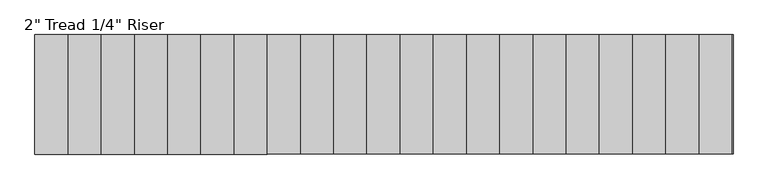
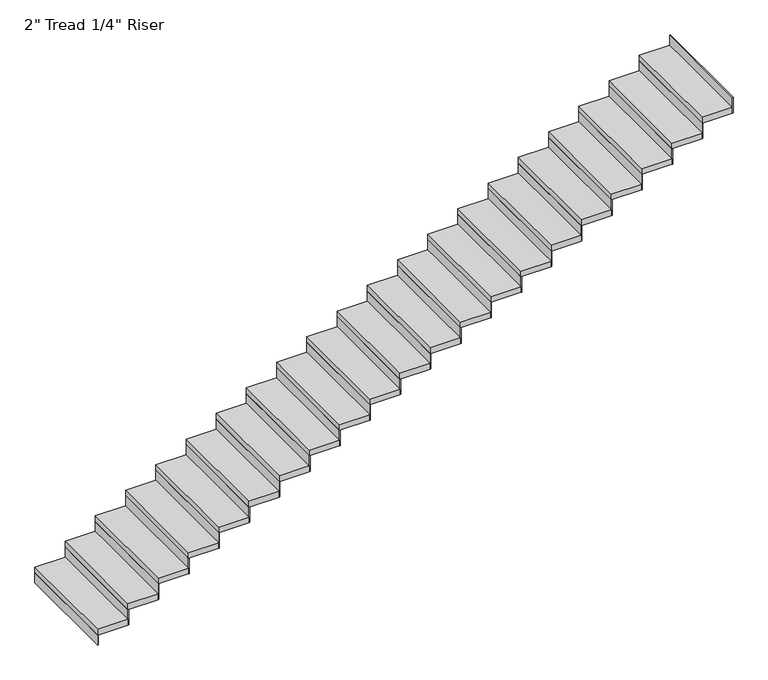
"""IFC4 building model written with IfcOpenShell, lengths in millimetres: stair flight geometry."""

from ifc_helpers import new_model, si_unit, frame, origin, origin_with_axes, place, context, project, spatial, polyline, outline, extrude, source, transform, mapped, element, save


def stair_flight_54802832(model_context):
    return source(origin(), model_context, "Body", "SweptSolid", [
        extrude(outline(polyline([(-14526.9713318, -10136.835031), (-14533.3213318, -10136.835031), (-14533.3213318, -9222.435031), (-14526.9713318, -9222.435031), (-14526.9713318, -10136.835031)])), origin_with_axes(), (0.0, 0.0, 1.0), 87.7454545),
        extrude(outline(polyline([(-14279.3213318, -9222.435031), (-14279.3213318, -10136.835031), (-14533.3213318, -10136.835031), (-14533.3213318, -9222.435031), (-14279.3213318, -9222.435031)])), frame((0.0, 0.0, 87.7454545), z_axis=(0.0, 0.0, 1.0), x_axis=(1.0, 0.0, 0.0)), (0.0, 0.0, 1.0), 50.8),
        extrude(outline(polyline([(-14272.9713318, -10136.835031), (-14279.3213318, -10136.835031), (-14279.3213318, -9222.435031), (-14272.9713318, -9222.435031), (-14272.9713318, -10136.835031)])), frame((0.0, 0.0, 87.7454545), z_axis=(0.0, 0.0, 1.0), x_axis=(1.0, 0.0, 0.0)), (0.0, 0.0, 1.0), 138.5454545),
        extrude(outline(polyline([(-14025.3213318, -9222.435031), (-14025.3213318, -10136.835031), (-14279.3213318, -10136.835031), (-14279.3213318, -9222.435031), (-14025.3213318, -9222.435031)])), frame((0.0, 0.0, 226.2909091), z_axis=(0.0, 0.0, 1.0), x_axis=(1.0, 0.0, 0.0)), (0.0, 0.0, 1.0), 50.8),
        extrude(outline(polyline([(-14018.9713318, -10136.835031), (-14025.3213318, -10136.835031), (-14025.3213318, -9222.435031), (-14018.9713318, -9222.435031), (-14018.9713318, -10136.835031)])), frame((0.0, 0.0, 226.2909091), z_axis=(0.0, 0.0, 1.0), x_axis=(1.0, 0.0, 0.0)), (0.0, 0.0, 1.0), 138.5454545),
        extrude(outline(polyline([(-13771.3213318, -9222.435031), (-13771.3213318, -10136.835031), (-14025.3213318, -10136.835031), (-14025.3213318, -9222.435031), (-13771.3213318, -9222.435031)])), frame((0.0, 0.0, 364.8363636), z_axis=(0.0, 0.0, 1.0), x_axis=(1.0, 0.0, 0.0)), (0.0, 0.0, 1.0), 50.8),
        extrude(outline(polyline([(-13764.9713318, -10136.835031), (-13771.3213318, -10136.835031), (-13771.3213318, -9222.435031), (-13764.9713318, -9222.435031), (-13764.9713318, -10136.835031)])), frame((0.0, 0.0, 364.8363636), z_axis=(0.0, 0.0, 1.0), x_axis=(1.0, 0.0, 0.0)), (0.0, 0.0, 1.0), 138.5454545),
        extrude(outline(polyline([(-13517.3213318, -9222.435031), (-13517.3213318, -10136.835031), (-13771.3213318, -10136.835031), (-13771.3213318, -9222.435031), (-13517.3213318, -9222.435031)])), frame((0.0, 0.0, 503.3818182), z_axis=(0.0, 0.0, 1.0), x_axis=(1.0, 0.0, 0.0)), (0.0, 0.0, 1.0), 50.8),
        extrude(outline(polyline([(-13510.9713318, -10136.835031), (-13517.3213318, -10136.835031), (-13517.3213318, -9222.435031), (-13510.9713318, -9222.435031), (-13510.9713318, -10136.835031)])), frame((0.0, 0.0, 503.3818182), z_axis=(0.0, 0.0, 1.0), x_axis=(1.0, 0.0, 0.0)), (0.0, 0.0, 1.0), 138.5454545),
        extrude(outline(polyline([(-13263.3213318, -9222.435031), (-13263.3213318, -10136.835031), (-13517.3213318, -10136.835031), (-13517.3213318, -9222.435031), (-13263.3213318, -9222.435031)])), frame((0.0, 0.0, 641.9272727), z_axis=(0.0, 0.0, 1.0), x_axis=(1.0, 0.0, 0.0)), (0.0, 0.0, 1.0), 50.8),
        extrude(outline(polyline([(-13256.9713318, -10136.835031), (-13263.3213318, -10136.835031), (-13263.3213318, -9222.435031), (-13256.9713318, -9222.435031), (-13256.9713318, -10136.835031)])), frame((0.0, 0.0, 641.9272727), z_axis=(0.0, 0.0, 1.0), x_axis=(1.0, 0.0, 0.0)), (0.0, 0.0, 1.0), 138.5454545),
        extrude(outline(polyline([(-13009.3213318, -9222.435031), (-13009.3213318, -10136.835031), (-13263.3213318, -10136.835031), (-13263.3213318, -9222.435031), (-13009.3213318, -9222.435031)])), frame((0.0, 0.0, 780.4727273), z_axis=(0.0, 0.0, 1.0), x_axis=(1.0, 0.0, 0.0)), (0.0, 0.0, 1.0), 50.8),
        extrude(outline(polyline([(-13002.9713318, -10136.835031), (-13009.3213318, -10136.835031), (-13009.3213318, -9222.435031), (-13002.9713318, -9222.435031), (-13002.9713318, -10136.835031)])), frame((0.0, 0.0, 780.4727273), z_axis=(0.0, 0.0, 1.0), x_axis=(1.0, 0.0, 0.0)), (0.0, 0.0, 1.0), 138.5454545),
        extrude(outline(polyline([(-12755.3213318, -9222.435031), (-12755.3213318, -10136.835031), (-13009.3213318, -10136.835031), (-13009.3213318, -9222.435031), (-12755.3213318, -9222.435031)])), frame((0.0, 0.0, 919.0181818), z_axis=(0.0, 0.0, 1.0), x_axis=(1.0, 0.0, 0.0)), (0.0, 0.0, 1.0), 50.8),
        extrude(outline(polyline([(-12748.9713318, -10136.835031), (-12755.3213318, -10136.835031), (-12755.3213318, -9222.435031), (-12748.9713318, -9222.435031), (-12748.9713318, -10136.835031)])), frame((0.0, 0.0, 919.0181818), z_axis=(0.0, 0.0, 1.0), x_axis=(1.0, 0.0, 0.0)), (0.0, 0.0, 1.0), 138.5454545),
        extrude(outline(polyline([(-12501.3213318, -9222.435031), (-12501.3213318, -10136.835031), (-12755.3213318, -10136.835031), (-12755.3213318, -9222.435031), (-12501.3213318, -9222.435031)])), frame((0.0, 0.0, 1057.5636364), z_axis=(0.0, 0.0, 1.0), x_axis=(1.0, 0.0, 0.0)), (0.0, 0.0, 1.0), 50.8),
        extrude(outline(polyline([(-12494.9713318, -10136.835031), (-12501.3213318, -10136.835031), (-12501.3213318, -9222.435031), (-12494.9713318, -9222.435031), (-12494.9713318, -10136.835031)])), frame((0.0, 0.0, 1057.5636364), z_axis=(0.0, 0.0, 1.0), x_axis=(1.0, 0.0, 0.0)), (0.0, 0.0, 1.0), 138.5454545),
        extrude(outline(polyline([(-12247.3213318, -9222.435031), (-12247.3213318, -10136.835031), (-12501.3213318, -10136.835031), (-12501.3213318, -9222.435031), (-12247.3213318, -9222.435031)])), frame((0.0, 0.0, 1196.1090909), z_axis=(0.0, 0.0, 1.0), x_axis=(1.0, 0.0, 0.0)), (0.0, 0.0, 1.0), 50.8),
        extrude(outline(polyline([(-12240.9713318, -10136.835031), (-12247.3213318, -10136.835031), (-12247.3213318, -9222.435031), (-12240.9713318, -9222.435031), (-12240.9713318, -10136.835031)])), frame((0.0, 0.0, 1196.1090909), z_axis=(0.0, 0.0, 1.0), x_axis=(1.0, 0.0, 0.0)), (0.0, 0.0, 1.0), 138.5454545),
        extrude(outline(polyline([(-11993.3213318, -9222.435031), (-11993.3213318, -10136.835031), (-12247.3213318, -10136.835031), (-12247.3213318, -9222.435031), (-11993.3213318, -9222.435031)])), frame((0.0, 0.0, 1334.6545455), z_axis=(0.0, 0.0, 1.0), x_axis=(1.0, 0.0, 0.0)), (0.0, 0.0, 1.0), 50.8),
        extrude(outline(polyline([(-11986.9713318, -10136.835031), (-11993.3213318, -10136.835031), (-11993.3213318, -9222.435031), (-11986.9713318, -9222.435031), (-11986.9713318, -10136.835031)])), frame((0.0, 0.0, 1334.6545455), z_axis=(0.0, 0.0, 1.0), x_axis=(1.0, 0.0, 0.0)), (0.0, 0.0, 1.0), 138.5454545),
        extrude(outline(polyline([(-11739.3213318, -9222.435031), (-11739.3213318, -10136.835031), (-11993.3213318, -10136.835031), (-11993.3213318, -9222.435031), (-11739.3213318, -9222.435031)])), frame((0.0, 0.0, 1473.2), z_axis=(0.0, 0.0, 1.0), x_axis=(1.0, 0.0, 0.0)), (0.0, 0.0, 1.0), 50.8),
        extrude(outline(polyline([(-11732.9713318, -10136.835031), (-11739.3213318, -10136.835031), (-11739.3213318, -9222.435031), (-11732.9713318, -9222.435031), (-11732.9713318, -10136.835031)])), frame((0.0, 0.0, 1473.2), z_axis=(0.0, 0.0, 1.0), x_axis=(1.0, 0.0, 0.0)), (0.0, 0.0, 1.0), 138.5454545),
        extrude(outline(polyline([(-11485.3213318, -9222.435031), (-11485.3213318, -10136.835031), (-11739.3213318, -10136.835031), (-11739.3213318, -9222.435031), (-11485.3213318, -9222.435031)])), frame((0.0, 0.0, 1611.7454545), z_axis=(0.0, 0.0, 1.0), x_axis=(1.0, 0.0, 0.0)), (0.0, 0.0, 1.0), 50.8),
        extrude(outline(polyline([(-11478.9713318, -10136.835031), (-11485.3213318, -10136.835031), (-11485.3213318, -9222.435031), (-11478.9713318, -9222.435031), (-11478.9713318, -10136.835031)])), frame((0.0, 0.0, 1611.7454545), z_axis=(0.0, 0.0, 1.0), x_axis=(1.0, 0.0, 0.0)), (0.0, 0.0, 1.0), 138.5454545),
        extrude(outline(polyline([(-11231.3213318, -9222.435031), (-11231.3213318, -10136.835031), (-11485.3213318, -10136.835031), (-11485.3213318, -9222.435031), (-11231.3213318, -9222.435031)])), frame((0.0, 0.0, 1750.2909091), z_axis=(0.0, 0.0, 1.0), x_axis=(1.0, 0.0, 0.0)), (0.0, 0.0, 1.0), 50.8),
        extrude(outline(polyline([(-11224.9713318, -10136.835031), (-11231.3213318, -10136.835031), (-11231.3213318, -9222.435031), (-11224.9713318, -9222.435031), (-11224.9713318, -10136.835031)])), frame((0.0, 0.0, 1750.2909091), z_axis=(0.0, 0.0, 1.0), x_axis=(1.0, 0.0, 0.0)), (0.0, 0.0, 1.0), 138.5454545),
        extrude(outline(polyline([(-10977.3213318, -9222.435031), (-10977.3213318, -10136.835031), (-11231.3213318, -10136.835031), (-11231.3213318, -9222.435031), (-10977.3213318, -9222.435031)])), frame((0.0, 0.0, 1888.8363636), z_axis=(0.0, 0.0, 1.0), x_axis=(1.0, 0.0, 0.0)), (0.0, 0.0, 1.0), 50.8),
        extrude(outline(polyline([(-10970.9713318, -10136.835031), (-10977.3213318, -10136.835031), (-10977.3213318, -9222.435031), (-10970.9713318, -9222.435031), (-10970.9713318, -10136.835031)])), frame((0.0, 0.0, 1888.8363636), z_axis=(0.0, 0.0, 1.0), x_axis=(1.0, 0.0, 0.0)), (0.0, 0.0, 1.0), 138.5454545),
        extrude(outline(polyline([(-10723.3213318, -9222.435031), (-10723.3213318, -10136.835031), (-10977.3213318, -10136.835031), (-10977.3213318, -9222.435031), (-10723.3213318, -9222.435031)])), frame((0.0, 0.0, 2027.3818182), z_axis=(0.0, 0.0, 1.0), x_axis=(1.0, 0.0, 0.0)), (0.0, 0.0, 1.0), 50.8),
        extrude(outline(polyline([(-10716.9713318, -10136.835031), (-10723.3213318, -10136.835031), (-10723.3213318, -9222.435031), (-10716.9713318, -9222.435031), (-10716.9713318, -10136.835031)])), frame((0.0, 0.0, 2027.3818182), z_axis=(0.0, 0.0, 1.0), x_axis=(1.0, 0.0, 0.0)), (0.0, 0.0, 1.0), 138.5454545),
        extrude(outline(polyline([(-10469.3213318, -9222.435031), (-10469.3213318, -10136.835031), (-10723.3213318, -10136.835031), (-10723.3213318, -9222.435031), (-10469.3213318, -9222.435031)])), frame((0.0, 0.0, 2165.9272727), z_axis=(0.0, 0.0, 1.0), x_axis=(1.0, 0.0, 0.0)), (0.0, 0.0, 1.0), 50.8),
        extrude(outline(polyline([(-10462.9713318, -10136.835031), (-10469.3213318, -10136.835031), (-10469.3213318, -9222.435031), (-10462.9713318, -9222.435031), (-10462.9713318, -10136.835031)])), frame((0.0, 0.0, 2165.9272727), z_axis=(0.0, 0.0, 1.0), x_axis=(1.0, 0.0, 0.0)), (0.0, 0.0, 1.0), 138.5454545),
        extrude(outline(polyline([(-10215.3213318, -9222.435031), (-10215.3213318, -10136.835031), (-10469.3213318, -10136.835031), (-10469.3213318, -9222.435031), (-10215.3213318, -9222.435031)])), frame((0.0, 0.0, 2304.4727273), z_axis=(0.0, 0.0, 1.0), x_axis=(1.0, 0.0, 0.0)), (0.0, 0.0, 1.0), 50.8),
        extrude(outline(polyline([(-10208.9713318, -10136.835031), (-10215.3213318, -10136.835031), (-10215.3213318, -9222.435031), (-10208.9713318, -9222.435031), (-10208.9713318, -10136.835031)])), frame((0.0, 0.0, 2304.4727273), z_axis=(0.0, 0.0, 1.0), x_axis=(1.0, 0.0, 0.0)), (0.0, 0.0, 1.0), 138.5454545),
        extrude(outline(polyline([(-9961.3213318, -9222.435031), (-9961.3213318, -10136.835031), (-10215.3213318, -10136.835031), (-10215.3213318, -9222.435031), (-9961.3213318, -9222.435031)])), frame((0.0, 0.0, 2443.0181818), z_axis=(0.0, 0.0, 1.0), x_axis=(1.0, 0.0, 0.0)), (0.0, 0.0, 1.0), 50.8),
        extrude(outline(polyline([(-9954.9713318, -10136.835031), (-9961.3213318, -10136.835031), (-9961.3213318, -9222.435031), (-9954.9713318, -9222.435031), (-9954.9713318, -10136.835031)])), frame((0.0, 0.0, 2443.0181818), z_axis=(0.0, 0.0, 1.0), x_axis=(1.0, 0.0, 0.0)), (0.0, 0.0, 1.0), 138.5454545),
        extrude(outline(polyline([(-9707.3213318, -9222.435031), (-9707.3213318, -10136.835031), (-9961.3213318, -10136.835031), (-9961.3213318, -9222.435031), (-9707.3213318, -9222.435031)])), frame((0.0, 0.0, 2581.5636364), z_axis=(0.0, 0.0, 1.0), x_axis=(1.0, 0.0, 0.0)), (0.0, 0.0, 1.0), 50.8),
        extrude(outline(polyline([(-9700.9713318, -10136.835031), (-9707.3213318, -10136.835031), (-9707.3213318, -9222.435031), (-9700.9713318, -9222.435031), (-9700.9713318, -10136.835031)])), frame((0.0, 0.0, 2581.5636364), z_axis=(0.0, 0.0, 1.0), x_axis=(1.0, 0.0, 0.0)), (0.0, 0.0, 1.0), 138.5454545),
        extrude(outline(polyline([(-9453.3213318, -9222.435031), (-9453.3213318, -10136.835031), (-9707.3213318, -10136.835031), (-9707.3213318, -9222.435031), (-9453.3213318, -9222.435031)])), frame((0.0, 0.0, 2720.1090909), z_axis=(0.0, 0.0, 1.0), x_axis=(1.0, 0.0, 0.0)), (0.0, 0.0, 1.0), 50.8),
        extrude(outline(polyline([(-9446.9713318, -10136.835031), (-9453.3213318, -10136.835031), (-9453.3213318, -9222.435031), (-9446.9713318, -9222.435031), (-9446.9713318, -10136.835031)])), frame((0.0, 0.0, 2720.1090909), z_axis=(0.0, 0.0, 1.0), x_axis=(1.0, 0.0, 0.0)), (0.0, 0.0, 1.0), 138.5454545),
        extrude(outline(polyline([(-9192.9713318, -10136.835031), (-9199.3213318, -10136.835031), (-9199.3213318, -9222.435031), (-9192.9713318, -9222.435031), (-9192.9713318, -10136.835031)])), frame((0.0, 0.0, 2858.6545455), z_axis=(0.0, 0.0, 1.0), x_axis=(1.0, 0.0, 0.0)), (0.0, 0.0, 1.0), 138.5454545),
        extrude(outline(polyline([(-9199.3213318, -9222.435031), (-9199.3213318, -10136.835031), (-9453.3213318, -10136.835031), (-9453.3213318, -9222.435031), (-9199.3213318, -9222.435031)])), frame((0.0, 0.0, 2858.6545455), z_axis=(0.0, 0.0, 1.0), x_axis=(1.0, 0.0, 0.0)), (0.0, 0.0, 1.0), 50.8),
    ])


if __name__ == "__main__":
    model = new_model("IFC4")
    model_context = context("Model", 3, world=origin())
    ifc_project = project(units=[si_unit("LENGTHUNIT", "METRE", prefix="MILLI")], contexts=[model_context])
    site = spatial("IfcSite", under=ifc_project)
    building = spatial("IfcBuilding", under=site)
    placement = place(None, origin())
    stair_flight_shape = stair_flight_54802832(model_context)
    element("IfcStairFlight", 1, ObjectType="2\" Tread 1/4\" Riser", at=placement, inside=building, context=model_context, shape_type="MappedRepresentation", body=[
        mapped(stair_flight_shape, transform((0.0, 0.0, 0.0), x_axis=(1.0, 0.0, 0.0), y_axis=(0.0, 1.0, 0.0), z_axis=(0.0, 0.0, 1.0))),
    ])
    save(model, "model.ifc")
